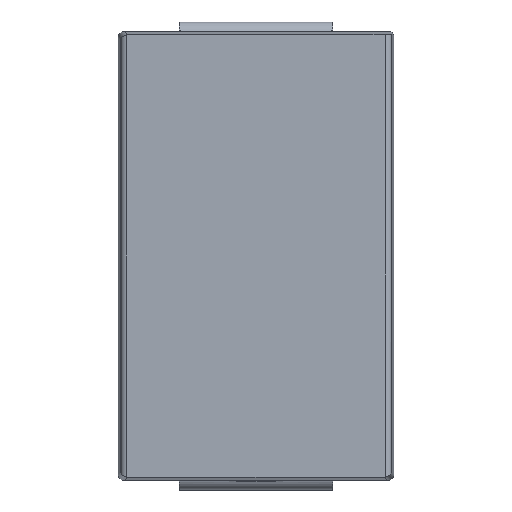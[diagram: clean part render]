
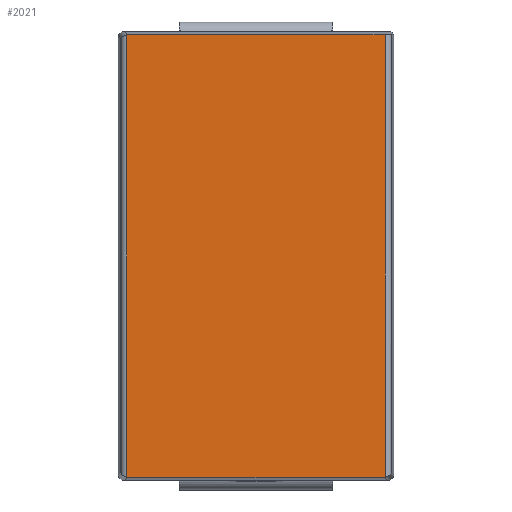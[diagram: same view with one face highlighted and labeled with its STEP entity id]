
A CAD part, front view. The second image highlights one B-rep face of the part: STEP entity #2021.
In plain terms, the highlighted planar face has unit normal (0, -1, 0).
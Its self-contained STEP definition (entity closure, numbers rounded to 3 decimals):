
#37 = ORIENTED_EDGE ( 'NONE', *, *, #2235, .T. ) ;
#117 = CARTESIAN_POINT ( 'NONE',  ( -2.012, -0.4, 3.45 ) ) ;
#136 = CARTESIAN_POINT ( 'NONE',  ( -2.012, -0.4, 3.45 ) ) ;
#231 = VERTEX_POINT ( 'NONE', #1746 ) ;
#242 = CARTESIAN_POINT ( 'NONE',  ( -2.009, -0.4, -3.451 ) ) ;
#252 = VERTEX_POINT ( 'NONE', #2064 ) ;
#301 = CARTESIAN_POINT ( 'NONE',  ( 2.012, -0.4, -3.45 ) ) ;
#308 = LINE ( 'NONE', #1206, #3395 ) ;
#323 = DIRECTION ( 'NONE',  ( 0., 0., 1. ) ) ;
#326 =( BOUNDED_CURVE ( )  B_SPLINE_CURVE ( 3, ( #3363, #1953, #1039, #1971 ),
 .UNSPECIFIED., .F., .T. ) 
 B_SPLINE_CURVE_WITH_KNOTS ( ( 4, 4 ),
 ( 5.505, 5.613 ),
 .UNSPECIFIED. ) 
 CURVE ( )  GEOMETRIC_REPRESENTATION_ITEM ( )  RATIONAL_B_SPLINE_CURVE ( ( 1., 0.999, 0.999, 1. ) ) 
 REPRESENTATION_ITEM ( '' )  );
#343 = DIRECTION ( 'NONE',  ( 0., 0., -1. ) ) ;
#365 = CARTESIAN_POINT ( 'NONE',  ( -2.002, -0.4, 3.451 ) ) ;
#414 = CARTESIAN_POINT ( 'NONE',  ( 0., -0.4, -3.451 ) ) ;
#437 = CARTESIAN_POINT ( 'NONE',  ( -2.002, -0.4, -3.451 ) ) ;
#449 = VERTEX_POINT ( 'NONE', #301 ) ;
#452 = DIRECTION ( 'NONE',  ( 1., 0., 0. ) ) ;
#617 = VECTOR ( 'NONE', #452, 1000. ) ;
#635 = PLANE ( 'NONE',  #3282 ) ;
#751 = CARTESIAN_POINT ( 'NONE',  ( -2.005, -0.4, -3.451 ) ) ;
#853 = VECTOR ( 'NONE', #3804, 1000. ) ;
#1039 = CARTESIAN_POINT ( 'NONE',  ( 2.009, -0.4, -3.451 ) ) ;
#1063 = VERTEX_POINT ( 'NONE', #365 ) ;
#1102 = CARTESIAN_POINT ( 'NONE',  ( -2.012, -0.4, -3.45 ) ) ;
#1153 = EDGE_CURVE ( 'NONE', #3345, #231, #308, .T. ) ;
#1206 = CARTESIAN_POINT ( 'NONE',  ( -2.012, -0.4, -3.451 ) ) ;
#1254 = EDGE_LOOP ( 'NONE', ( #1656, #1803, #1604, #3777, #1695, #1757, #37 ) ) ;
#1405 = CARTESIAN_POINT ( 'NONE',  ( -2.002, -0.4, -3.451 ) ) ;
#1526 =( BOUNDED_CURVE ( )  B_SPLINE_CURVE ( 3, ( #1102, #242, #751, #1405 ),
 .UNSPECIFIED., .F., .T. ) 
 B_SPLINE_CURVE_WITH_KNOTS ( ( 4, 4 ),
 ( 0.671, 0.778 ),
 .UNSPECIFIED. ) 
 CURVE ( )  GEOMETRIC_REPRESENTATION_ITEM ( )  RATIONAL_B_SPLINE_CURVE ( ( 1., 0.999, 0.999, 1. ) ) 
 REPRESENTATION_ITEM ( '' )  );
#1585 = DIRECTION ( 'NONE',  ( -1., 0., 0. ) ) ;
#1600 = CARTESIAN_POINT ( 'NONE',  ( -2.002, -0.4, 3.451 ) ) ;
#1604 = ORIENTED_EDGE ( 'NONE', *, *, #1153, .T. ) ;
#1656 = ORIENTED_EDGE ( 'NONE', *, *, #3593, .F. ) ;
#1695 = ORIENTED_EDGE ( 'NONE', *, *, #3787, .F. ) ;
#1746 = CARTESIAN_POINT ( 'NONE',  ( -2.012, -0.4, -3.45 ) ) ;
#1757 = ORIENTED_EDGE ( 'NONE', *, *, #2826, .T. ) ;
#1783 = CARTESIAN_POINT ( 'NONE',  ( 0., -0.4, 0. ) ) ;
#1803 = ORIENTED_EDGE ( 'NONE', *, *, #2355, .T. ) ;
#1931 = CARTESIAN_POINT ( 'NONE',  ( -2.005, -0.4, 3.451 ) ) ;
#1953 = CARTESIAN_POINT ( 'NONE',  ( 2.005, -0.4, -3.451 ) ) ;
#1971 = CARTESIAN_POINT ( 'NONE',  ( 2.012, -0.4, -3.45 ) ) ;
#2021 = ADVANCED_FACE ( 'NONE', ( #2850 ), #635, .F. ) ;
#2064 = CARTESIAN_POINT ( 'NONE',  ( 2.002, -0.4, -3.451 ) ) ;
#2082 = CARTESIAN_POINT ( 'NONE',  ( 2.012, -0.4, 3.451 ) ) ;
#2209 =( BOUNDED_CURVE ( )  B_SPLINE_CURVE ( 3, ( #1600, #1931, #3136, #117 ),
 .UNSPECIFIED., .F., .F. ) 
 B_SPLINE_CURVE_WITH_KNOTS ( ( 4, 4 ),
 ( 5.505, 5.613 ),
 .UNSPECIFIED. ) 
 CURVE ( )  GEOMETRIC_REPRESENTATION_ITEM ( )  RATIONAL_B_SPLINE_CURVE ( ( 1., 0.999, 0.999, 1. ) ) 
 REPRESENTATION_ITEM ( '' )  );
#2235 = EDGE_CURVE ( 'NONE', #449, #3338, #2626, .T. ) ;
#2355 = EDGE_CURVE ( 'NONE', #1063, #3345, #2209, .T. ) ;
#2388 = LINE ( 'NONE', #2779, #617 ) ;
#2431 = LINE ( 'NONE', #414, #3824 ) ;
#2626 = LINE ( 'NONE', #2082, #853 ) ;
#2779 = CARTESIAN_POINT ( 'NONE',  ( 0., -0.4, 3.451 ) ) ;
#2801 = CARTESIAN_POINT ( 'NONE',  ( 2.012, -0.4, 3.451 ) ) ;
#2826 = EDGE_CURVE ( 'NONE', #252, #449, #326, .T. ) ;
#2850 = FACE_OUTER_BOUND ( 'NONE', #1254, .T. ) ;
#2951 = DIRECTION ( 'NONE',  ( 0., 1., 0. ) ) ;
#3136 = CARTESIAN_POINT ( 'NONE',  ( -2.009, -0.4, 3.451 ) ) ;
#3188 = EDGE_CURVE ( 'NONE', #231, #3285, #1526, .T. ) ;
#3282 = AXIS2_PLACEMENT_3D ( 'NONE', #1783, #2951, #323 ) ;
#3285 = VERTEX_POINT ( 'NONE', #437 ) ;
#3338 = VERTEX_POINT ( 'NONE', #2801 ) ;
#3345 = VERTEX_POINT ( 'NONE', #136 ) ;
#3363 = CARTESIAN_POINT ( 'NONE',  ( 2.002, -0.4, -3.451 ) ) ;
#3395 = VECTOR ( 'NONE', #343, 1000. ) ;
#3593 = EDGE_CURVE ( 'NONE', #1063, #3338, #2388, .T. ) ;
#3777 = ORIENTED_EDGE ( 'NONE', *, *, #3188, .T. ) ;
#3787 = EDGE_CURVE ( 'NONE', #252, #3285, #2431, .T. ) ;
#3804 = DIRECTION ( 'NONE',  ( 0., 0., 1. ) ) ;
#3824 = VECTOR ( 'NONE', #1585, 1000. ) ;
